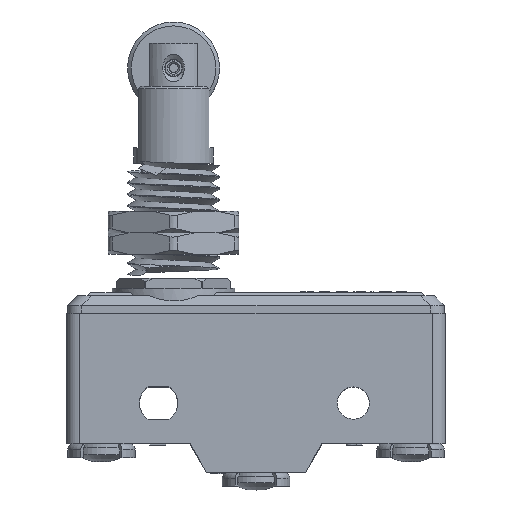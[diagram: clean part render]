
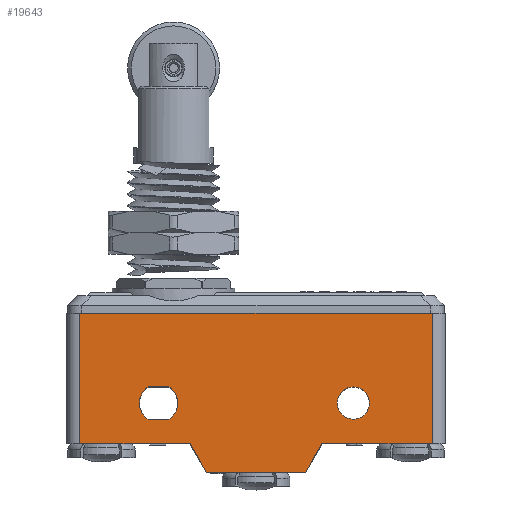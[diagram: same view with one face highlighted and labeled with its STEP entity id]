
A CAD part, top view. The second image highlights one B-rep face of the part: STEP entity #19643.
In plain terms, the highlighted planar face has unit normal (0, 0, 1).
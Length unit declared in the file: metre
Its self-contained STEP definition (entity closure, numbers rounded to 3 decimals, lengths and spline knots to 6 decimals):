
#16895=CARTESIAN_POINT('',(0.007871,-0.003357,0.05825));
#16896=VERTEX_POINT('',#16895);
#16899=CARTESIAN_POINT('',(0.005735,-0.007057,0.05825));
#16900=DIRECTION('',(0.5,0.866,0.));
#16901=VECTOR('',#16900,1.);
#16902=LINE('',#16899,#16901);
#16903=CARTESIAN_POINT('',(0.005735,-0.007057,0.05825));
#16904=VERTEX_POINT('',#16903);
#16905=EDGE_CURVE('',#16904,#16896,#16902,.T.);
#17681=CARTESIAN_POINT('',(-0.007193,-0.007057,0.05825));
#17682=DIRECTION('',(1.,0.,0.));
#17683=VECTOR('',#17682,1.);
#17684=LINE('',#17681,#17683);
#17685=CARTESIAN_POINT('',(-0.007193,-0.007057,0.05825));
#17686=VERTEX_POINT('',#17685);
#17687=EDGE_CURVE('',#17686,#16904,#17684,.T.);
#17793=CARTESIAN_POINT('',(-0.009329,-0.003357,0.05825));
#17794=DIRECTION('',(0.5,-0.866,0.));
#17795=VECTOR('',#17794,1.);
#17796=LINE('',#17793,#17795);
#17797=CARTESIAN_POINT('',(-0.009329,-0.003357,0.05825));
#17798=VERTEX_POINT('',#17797);
#17799=EDGE_CURVE('',#17798,#17686,#17796,.T.);
#19252=CARTESIAN_POINT('',(-0.025429,-0.003357,0.05825));
#19253=DIRECTION('',(1.,0.,0.));
#19254=VECTOR('',#19253,1.);
#19255=LINE('',#19252,#19254);
#19256=CARTESIAN_POINT('',(-0.023679,-0.003357,0.05825));
#19257=VERTEX_POINT('',#19256);
#19258=EDGE_CURVE('',#19257,#17798,#19255,.T.);
#19368=CARTESIAN_POINT('',(-0.023679,0.013643,0.05825));
#19369=VERTEX_POINT('',#19368);
#19374=CARTESIAN_POINT('',(-0.023679,0.001243,0.05825));
#19375=DIRECTION('',(0.,-1.,0.));
#19376=VECTOR('',#19375,1.);
#19377=LINE('',#19374,#19376);
#19378=EDGE_CURVE('',#19369,#19257,#19377,.T.);
#19401=CARTESIAN_POINT('',(0.022221,-0.003357,0.05825));
#19402=VERTEX_POINT('',#19401);
#19420=CARTESIAN_POINT('',(0.022221,0.013643,0.05825));
#19421=VERTEX_POINT('',#19420);
#19424=CARTESIAN_POINT('',(0.022221,0.001243,0.05825));
#19425=DIRECTION('',(0.,1.,0.));
#19426=VECTOR('',#19425,1.);
#19427=LINE('',#19424,#19426);
#19428=EDGE_CURVE('',#19402,#19421,#19427,.T.);
#19461=CARTESIAN_POINT('',(-0.014786,0.004043,0.05825));
#19462=VERTEX_POINT('',#19461);
#19465=CARTESIAN_POINT('',(-0.013429,0.001943,0.05825));
#19466=DIRECTION('',(0.,0.,1.));
#19467=DIRECTION('',(1.,0.,0.));
#19468=AXIS2_PLACEMENT_3D('',#19465,#19466,#19467);
#19469=CIRCLE('',#19468,0.0025);
#19470=CARTESIAN_POINT('',(-0.014786,-0.000157,0.05825));
#19471=VERTEX_POINT('',#19470);
#19472=EDGE_CURVE('',#19462,#19471,#19469,.T.);
#19505=CARTESIAN_POINT('',(-0.012073,-0.000157,0.05825));
#19506=DIRECTION('',(1.,0.,0.));
#19507=VECTOR('',#19506,1.);
#19508=LINE('',#19505,#19507);
#19509=CARTESIAN_POINT('',(-0.012073,-0.000157,0.05825));
#19510=VERTEX_POINT('',#19509);
#19511=EDGE_CURVE('',#19471,#19510,#19508,.T.);
#19535=CARTESIAN_POINT('',(-0.013429,0.001943,0.05825));
#19536=DIRECTION('',(0.,0.,1.));
#19537=DIRECTION('',(1.,0.,0.));
#19538=AXIS2_PLACEMENT_3D('',#19535,#19536,#19537);
#19539=CIRCLE('',#19538,0.0025);
#19540=CARTESIAN_POINT('',(-0.012073,0.004043,0.05825));
#19541=VERTEX_POINT('',#19540);
#19542=EDGE_CURVE('',#19510,#19541,#19539,.T.);
#19577=CARTESIAN_POINT('',(-0.012073,0.004043,0.05825));
#19578=DIRECTION('',(-1.,0.,0.));
#19579=VECTOR('',#19578,1.);
#19580=LINE('',#19577,#19579);
#19581=EDGE_CURVE('',#19541,#19462,#19580,.T.);
#19601=CARTESIAN_POINT('',(0.012611,0.001243,0.05825));
#19602=DIRECTION('',(0.,0.,-1.));
#19603=DIRECTION('',(-1.,0.,0.));
#19604=AXIS2_PLACEMENT_3D('',#19601,#19602,#19603);
#19605=PLANE('',#19604);
#19606=ORIENTED_EDGE('',*,*,#19581,.F.);
#19607=ORIENTED_EDGE('',*,*,#19542,.F.);
#19608=ORIENTED_EDGE('',*,*,#19511,.F.);
#19609=ORIENTED_EDGE('',*,*,#19472,.F.);
#19610=EDGE_LOOP('',(#19606,#19607,#19608,#19609));
#19611=FACE_BOUND('',#19610,.T.);
#19612=CARTESIAN_POINT('',(0.011971,0.001943,0.05825));
#19613=DIRECTION('',(0.,0.,1.));
#19614=DIRECTION('',(1.,0.,0.));
#19615=AXIS2_PLACEMENT_3D('',#19612,#19613,#19614);
#19616=CIRCLE('',#19615,0.0021);
#19617=CARTESIAN_POINT('',(0.009871,0.001943,0.05825));
#19618=VERTEX_POINT('',#19617);
#19619=EDGE_CURVE('',#19618,#19618,#19616,.T.);
#19620=ORIENTED_EDGE('',*,*,#19619,.F.);
#19621=EDGE_LOOP('',(#19620));
#19622=FACE_BOUND('',#19621,.T.);
#19623=CARTESIAN_POINT('',(0.007871,-0.003357,0.05825));
#19624=DIRECTION('',(1.,0.,0.));
#19625=VECTOR('',#19624,1.);
#19626=LINE('',#19623,#19625);
#19627=EDGE_CURVE('',#16896,#19402,#19626,.T.);
#19628=ORIENTED_EDGE('',*,*,#19627,.T.);
#19629=ORIENTED_EDGE('',*,*,#19428,.T.);
#19630=CARTESIAN_POINT('',(0.023971,0.013643,0.05825));
#19631=DIRECTION('',(-1.,0.,0.));
#19632=VECTOR('',#19631,1.);
#19633=LINE('',#19630,#19632);
#19634=EDGE_CURVE('',#19421,#19369,#19633,.T.);
#19635=ORIENTED_EDGE('',*,*,#19634,.T.);
#19636=ORIENTED_EDGE('',*,*,#19378,.T.);
#19637=ORIENTED_EDGE('',*,*,#19258,.T.);
#19638=ORIENTED_EDGE('',*,*,#17799,.T.);
#19639=ORIENTED_EDGE('',*,*,#17687,.T.);
#19640=ORIENTED_EDGE('',*,*,#16905,.T.);
#19641=EDGE_LOOP('',(#19628,#19629,#19635,#19636,#19637,#19638,#19639,#19640));
#19642=FACE_BOUND('',#19641,.T.);
#19643=ADVANCED_FACE('',(#19611,#19622,#19642),#19605,.F.);
